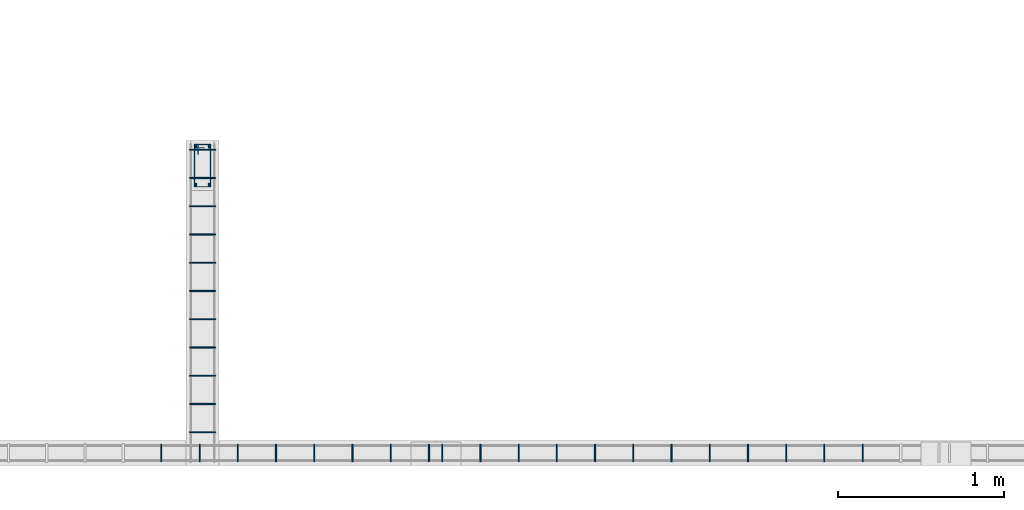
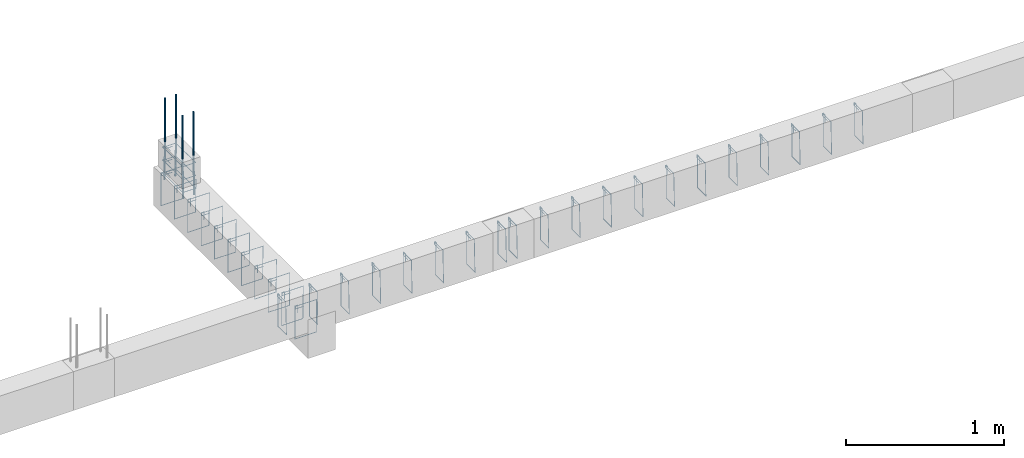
# One storey, part 89 of 150: 38 reinforcing bars.
"""IFC4 building model written with IfcOpenShell, lengths in centimetres."""

from ifc_helpers import new_model, entity, si_unit, derived_unit, frame, origin_with_axes, place, context, project, spatial, source, transform, mapped, element, save


model = new_model("IFC4")

# Units and contexts
model_context = context("Model", 3, precision=1e-05, world=origin_with_axes(), identifier="Body")
ifc_project = project(units=[si_unit("LENGTHUNIT", "METRE", prefix="CENTI"), si_unit("VOLUMEUNIT", "CUBIC_METRE"), si_unit("AREAUNIT", "SQUARE_METRE"), si_unit("POWERUNIT", "WATT"), si_unit("LUMINOUSFLUXUNIT", "LUMEN"), si_unit("ELECTRICCURRENTUNIT", "AMPERE"), si_unit("PRESSUREUNIT", "PASCAL", prefix="KILO"), si_unit("MASSUNIT", "GRAM", prefix="KILO"), si_unit("PLANEANGLEUNIT", "RADIAN"), derived_unit("VOLUMETRICFLOWRATEUNIT", [(si_unit("LENGTHUNIT", "METRE"), 3), (si_unit("TIMEUNIT", "SECOND"), -1)])], contexts=[model_context])

# Site, building, storey
site_placement = place(None, frame((-4000.0, 0.0, 0.0), z_axis=(0.0, 0.0, 1.0), x_axis=(1.0, 0.0, 0.0)))
site = spatial("IfcSite", under=ifc_project, at=site_placement, Name="PADRÃO")
building_placement = place(site_placement, frame((0.0, 0.0, -14.0)))
building = spatial("IfcBuilding", under=site, at=building_placement, Name="CRECHE PRÉ-ESCOLA TIPO 2")
placement = place(building_placement, origin_with_axes())
storey_placement = place(placement, frame((0.0, 0.0, 30.0), z_axis=(0.0, 0.0, 1.0), x_axis=(1.0, 0.0, 0.0)))
storey = spatial("IfcBuildingStorey", under=building, at=storey_placement, Name="VIGA BALDRAME", CompositionType="ELEMENT", Elevation=16.0)

# Reinforcing bars
shared_shape_1 = source(origin_with_axes(), model_context, "Body", "AdvancedSweptSolid", [
    entity("IfcSweptDiskSolid", entity("IfcCompositeCurve", [entity("IfcCompositeCurveSegment", "CONTINUOUS", True, entity("IfcPolyline", [entity("IfcCartesianPoint", [4.25, 21.75, 0.0]), entity("IfcCartesianPoint", [4.25, 27.75, 0.0])])), entity("IfcCompositeCurveSegment", "CONTINUOUS", True, entity("IfcPolyline", [entity("IfcCartesianPoint", [4.25, 27.75, 0.0]), entity("IfcCartesianPoint", [2.25, 27.75, 0.0])])), entity("IfcCompositeCurveSegment", "CONTINUOUS", True, entity("IfcPolyline", [entity("IfcCartesianPoint", [2.25, 27.75, 0.0]), entity("IfcCartesianPoint", [2.25, 2.25, 0.0])])), entity("IfcCompositeCurveSegment", "CONTINUOUS", True, entity("IfcPolyline", [entity("IfcCartesianPoint", [2.25, 2.25, 0.0]), entity("IfcCartesianPoint", [11.75, 2.25, 0.0])])), entity("IfcCompositeCurveSegment", "CONTINUOUS", True, entity("IfcPolyline", [entity("IfcCartesianPoint", [11.75, 2.25, 0.0]), entity("IfcCartesianPoint", [11.75, 27.75, -0.5])])), entity("IfcCompositeCurveSegment", "CONTINUOUS", True, entity("IfcPolyline", [entity("IfcCartesianPoint", [11.75, 27.75, -0.5]), entity("IfcCartesianPoint", [2.25, 27.75, -0.5])])), entity("IfcCompositeCurveSegment", "CONTINUOUS", True, entity("IfcPolyline", [entity("IfcCartesianPoint", [2.25, 27.75, -0.5]), entity("IfcCartesianPoint", [2.25, 25.75, -0.5])])), entity("IfcCompositeCurveSegment", "CONTINUOUS", True, entity("IfcPolyline", [entity("IfcCartesianPoint", [2.25, 25.75, -0.5]), entity("IfcCartesianPoint", [8.25, 25.75, -0.5])]))], False), 0.25),
])
for number, where, z_axis, x_axis, name in (
    (1, (3226.99, 167.5, -15.0), (0.0, 0.0, 1.0), (1.0, 0.0, 0.0), "P154 - Estribo"),
    (2, (3226.99, 167.5, -5.0), (0.0, 0.0, 1.0), (1.0, 0.0, 0.0), "P154 - Estribo"),
    (3, (3226.99, 167.5, -25.0), (0.0, 0.0, 1.0), (1.0, 0.0, 0.0), "P154 - Estribo"),
):
    element("IfcReinforcingBar", number, at=place(storey_placement, frame(where, z_axis=z_axis, x_axis=x_axis)), inside=storey, Name=name, BarLength=0.0, CrossSectionArea=1.9634954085e-05, NominalDiameter=0.5, PredefinedType="MAIN", context=model_context, shape_type="MappedRepresentation", body=[
        mapped(shared_shape_1, transform((0.0, 0.0, 0.0), scale=1.0)),
    ])
shared_shape_2 = source(origin_with_axes(), model_context, "Body", "AdvancedSweptSolid", [
    entity("IfcSweptDiskSolid", entity("IfcCompositeCurve", [entity("IfcCompositeCurveSegment", "CONTINUOUS", True, entity("IfcPolyline", [entity("IfcCartesianPoint", [2.0, -6.0, 0.0]), entity("IfcCartesianPoint", [2.0, 0.0, 0.0])])), entity("IfcCompositeCurveSegment", "CONTINUOUS", True, entity("IfcPolyline", [entity("IfcCartesianPoint", [2.0, 0.0, 0.0]), entity("IfcCartesianPoint", [0.0, 0.0, 0.0])])), entity("IfcCompositeCurveSegment", "CONTINUOUS", True, entity("IfcPolyline", [entity("IfcCartesianPoint", [0.0, 0.0, 0.0]), entity("IfcCartesianPoint", [0.0, -25.5, 0.0])])), entity("IfcCompositeCurveSegment", "CONTINUOUS", True, entity("IfcPolyline", [entity("IfcCartesianPoint", [0.0, -25.5, 0.0]), entity("IfcCartesianPoint", [10.5, -25.5, 0.0])])), entity("IfcCompositeCurveSegment", "CONTINUOUS", True, entity("IfcPolyline", [entity("IfcCartesianPoint", [10.5, -25.5, 0.0]), entity("IfcCartesianPoint", [10.5, 0.0, 0.5])])), entity("IfcCompositeCurveSegment", "CONTINUOUS", True, entity("IfcPolyline", [entity("IfcCartesianPoint", [10.5, 0.0, 0.5]), entity("IfcCartesianPoint", [0.0, 0.0, 0.5])])), entity("IfcCompositeCurveSegment", "CONTINUOUS", True, entity("IfcPolyline", [entity("IfcCartesianPoint", [0.0, 0.0, 0.5]), entity("IfcCartesianPoint", [0.0, -2.0, 0.5])])), entity("IfcCompositeCurveSegment", "CONTINUOUS", True, entity("IfcPolyline", [entity("IfcCartesianPoint", [0.0, -2.0, 0.5]), entity("IfcCartesianPoint", [6.0, -2.0, 0.5])]))], False), 0.25),
])
for number, where, z_axis, x_axis, name in (
    (4, (3209.5, 14.75, -2.25), (-1.0, 0.0, 0.0), (0.0, -1.0, 0.0), "V158 - Estribo"),
    (5, (3232.5, 14.75, -2.25), (-1.0, 0.0, 0.0), (0.0, -1.0, 0.0), "V158 - Estribo"),
    (6, (3255.5, 14.75, -2.25), (-1.0, 0.0, 0.0), (0.0, -1.0, 0.0), "V158 - Estribo"),
    (7, (3278.5, 14.75, -2.25), (-1.0, 0.0, 0.0), (0.0, -1.0, 0.0), "V158 - Estribo"),
    (8, (3301.5, 14.75, -2.25), (-1.0, 0.0, 0.0), (0.0, -1.0, 0.0), "V158 - Estribo"),
    (9, (3324.5, 14.75, -2.25), (-1.0, 0.0, 0.0), (0.0, -1.0, 0.0), "V158 - Estribo"),
    (10, (3347.5, 14.75, -2.25), (-1.0, 0.0, 0.0), (0.0, -1.0, 0.0), "V158 - Estribo"),
    (11, (3370.5, 14.75, -2.25), (-1.0, 0.0, 0.0), (0.0, -1.0, 0.0), "V158 - Estribo"),
):
    element("IfcReinforcingBar", number, at=place(storey_placement, frame(where, z_axis=z_axis, x_axis=x_axis)), inside=storey, Name=name, BarLength=0.0, CrossSectionArea=1.9634954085e-05, NominalDiameter=0.5, PredefinedType="MAIN", context=model_context, shape_type="MappedRepresentation", body=[
        mapped(shared_shape_2, transform((0.0, 0.0, 0.0), scale=1.0)),
    ])
shared_shape_3 = source(origin_with_axes(), model_context, "Body", "AdvancedSweptSolid", [
    entity("IfcSweptDiskSolid", entity("IfcCompositeCurve", [entity("IfcCompositeCurveSegment", "CONTINUOUS", True, entity("IfcPolyline", [entity("IfcCartesianPoint", [2.0, -6.0, 0.0]), entity("IfcCartesianPoint", [2.0, 0.0, 0.0])])), entity("IfcCompositeCurveSegment", "CONTINUOUS", True, entity("IfcPolyline", [entity("IfcCartesianPoint", [2.0, 0.0, 0.0]), entity("IfcCartesianPoint", [0.0, 0.0, 0.0])])), entity("IfcCompositeCurveSegment", "CONTINUOUS", True, entity("IfcPolyline", [entity("IfcCartesianPoint", [0.0, 0.0, 0.0]), entity("IfcCartesianPoint", [0.0, -25.5, 0.0])])), entity("IfcCompositeCurveSegment", "CONTINUOUS", True, entity("IfcPolyline", [entity("IfcCartesianPoint", [0.0, -25.5, 0.0]), entity("IfcCartesianPoint", [10.5, -25.5, 0.0])])), entity("IfcCompositeCurveSegment", "CONTINUOUS", True, entity("IfcPolyline", [entity("IfcCartesianPoint", [10.5, -25.5, 0.0]), entity("IfcCartesianPoint", [10.5, 0.0, 0.5])])), entity("IfcCompositeCurveSegment", "CONTINUOUS", True, entity("IfcPolyline", [entity("IfcCartesianPoint", [10.5, 0.0, 0.5]), entity("IfcCartesianPoint", [0.0, 0.0, 0.5])])), entity("IfcCompositeCurveSegment", "CONTINUOUS", True, entity("IfcPolyline", [entity("IfcCartesianPoint", [0.0, 0.0, 0.5]), entity("IfcCartesianPoint", [0.0, -2.0, 0.5])])), entity("IfcCompositeCurveSegment", "CONTINUOUS", True, entity("IfcPolyline", [entity("IfcCartesianPoint", [0.0, -2.0, 0.5]), entity("IfcCartesianPoint", [6.0, -2.0, 0.5])]))], False), 0.25),
])
for number, where, z_axis, x_axis, name in (
    (12, (3401.5, 14.75, -2.25), (-1.0, 0.0, 0.0), (0.0, -1.0, 0.0), "V158 - Estribo"),
    (13, (3424.5, 14.75, -2.25), (-1.0, 0.0, 0.0), (0.0, -1.0, 0.0), "V158 - Estribo"),
    (14, (3447.5, 14.75, -2.25), (-1.0, 0.0, 0.0), (0.0, -1.0, 0.0), "V158 - Estribo"),
    (15, (3470.5, 14.75, -2.25), (-1.0, 0.0, 0.0), (0.0, -1.0, 0.0), "V158 - Estribo"),
    (16, (3493.5, 14.75, -2.25), (-1.0, 0.0, 0.0), (0.0, -1.0, 0.0), "V158 - Estribo"),
    (17, (3516.5, 14.75, -2.25), (-1.0, 0.0, 0.0), (0.0, -1.0, 0.0), "V158 - Estribo"),
    (18, (3539.5, 14.75, -2.25), (-1.0, 0.0, 0.0), (0.0, -1.0, 0.0), "V158 - Estribo"),
    (19, (3562.5, 14.75, -2.25), (-1.0, 0.0, 0.0), (0.0, -1.0, 0.0), "V158 - Estribo"),
    (20, (3585.5, 14.75, -2.25), (-1.0, 0.0, 0.0), (0.0, -1.0, 0.0), "V158 - Estribo"),
    (21, (3608.5, 14.75, -2.25), (-1.0, 0.0, 0.0), (0.0, -1.0, 0.0), "V158 - Estribo"),
    (22, (3631.5, 14.75, -2.25), (-1.0, 0.0, 0.0), (0.0, -1.0, 0.0), "V158 - Estribo"),
    (23, (3378.5, 14.75, -2.25), (-1.0, 0.0, 0.0), (0.0, -1.0, 0.0), "V158 - Estribo"),
):
    element("IfcReinforcingBar", number, at=place(storey_placement, frame(where, z_axis=z_axis, x_axis=x_axis)), inside=storey, Name=name, BarLength=0.0, CrossSectionArea=1.9634954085e-05, NominalDiameter=0.5, PredefinedType="MAIN", context=model_context, shape_type="MappedRepresentation", body=[
        mapped(shared_shape_3, transform((0.0, 0.0, 0.0), scale=1.0)),
    ])
shared_shape_4 = source(origin_with_axes(), model_context, "Body", "AdvancedSweptSolid", [
    entity("IfcSweptDiskSolid", entity("IfcCompositeCurve", [entity("IfcCompositeCurveSegment", "CONTINUOUS", True, entity("IfcPolyline", [entity("IfcCartesianPoint", [2.0, -6.0, 0.0]), entity("IfcCartesianPoint", [2.0, 0.0, 0.0])])), entity("IfcCompositeCurveSegment", "CONTINUOUS", True, entity("IfcPolyline", [entity("IfcCartesianPoint", [2.0, 0.0, 0.0]), entity("IfcCartesianPoint", [0.0, 0.0, 0.0])])), entity("IfcCompositeCurveSegment", "CONTINUOUS", True, entity("IfcPolyline", [entity("IfcCartesianPoint", [0.0, 0.0, 0.0]), entity("IfcCartesianPoint", [0.0, -25.5, 0.0])])), entity("IfcCompositeCurveSegment", "CONTINUOUS", True, entity("IfcPolyline", [entity("IfcCartesianPoint", [0.0, -25.5, 0.0]), entity("IfcCartesianPoint", [15.5, -25.5, 0.0])])), entity("IfcCompositeCurveSegment", "CONTINUOUS", True, entity("IfcPolyline", [entity("IfcCartesianPoint", [15.5, -25.5, 0.0]), entity("IfcCartesianPoint", [15.5, 0.0, 0.5])])), entity("IfcCompositeCurveSegment", "CONTINUOUS", True, entity("IfcPolyline", [entity("IfcCartesianPoint", [15.5, 0.0, 0.5]), entity("IfcCartesianPoint", [0.0, 0.0, 0.5])])), entity("IfcCompositeCurveSegment", "CONTINUOUS", True, entity("IfcPolyline", [entity("IfcCartesianPoint", [0.0, 0.0, 0.5]), entity("IfcCartesianPoint", [0.0, -2.0, 0.5])])), entity("IfcCompositeCurveSegment", "CONTINUOUS", True, entity("IfcPolyline", [entity("IfcCartesianPoint", [0.0, -2.0, 0.5]), entity("IfcCartesianPoint", [6.0, -2.0, 0.5])]))], False), 0.25),
])
for number, where, z_axis, x_axis, name in (
    (24, (3226.24, 22.25, -22.25), (0.0, -1.0, 0.0), (1.0, 0.0, 0.0), "V223 - Estribo"),
    (25, (3226.24, 39.25, -22.25), (0.0, -1.0, 0.0), (1.0, 0.0, 0.0), "V223 - Estribo"),
    (26, (3226.24, 56.25, -22.25), (0.0, -1.0, 0.0), (1.0, 0.0, 0.0), "V223 - Estribo"),
    (27, (3226.24, 73.25, -22.25), (0.0, -1.0, 0.0), (1.0, 0.0, 0.0), "V223 - Estribo"),
    (28, (3226.24, 90.25, -22.25), (0.0, -1.0, 0.0), (1.0, 0.0, 0.0), "V223 - Estribo"),
    (29, (3226.24, 107.25, -22.25), (0.0, -1.0, 0.0), (1.0, 0.0, 0.0), "V223 - Estribo"),
    (30, (3226.24, 124.25, -22.25), (0.0, -1.0, 0.0), (1.0, 0.0, 0.0), "V223 - Estribo"),
    (31, (3226.24, 141.25, -22.25), (0.0, -1.0, 0.0), (1.0, 0.0, 0.0), "V223 - Estribo"),
    (32, (3226.24, 158.25, -22.25), (0.0, -1.0, 0.0), (1.0, 0.0, 0.0), "V223 - Estribo"),
    (33, (3226.24, 175.25, -22.25), (0.0, -1.0, 0.0), (1.0, 0.0, 0.0), "V223 - Estribo"),
    (34, (3226.24, 192.25, -22.25), (0.0, -1.0, 0.0), (1.0, 0.0, 0.0), "V223 - Estribo"),
):
    element("IfcReinforcingBar", number, at=place(storey_placement, frame(where, z_axis=z_axis, x_axis=x_axis)), inside=storey, Name=name, BarLength=0.0, CrossSectionArea=1.9634954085e-05, NominalDiameter=0.5, PredefinedType="MAIN", context=model_context, shape_type="MappedRepresentation", body=[
        mapped(shared_shape_4, transform((0.0, 0.0, 0.0), scale=1.0)),
    ])
reinforcing_bar_1_placement = place(storey_placement, frame((3237.99, 193.999861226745, 33.3573001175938), z_axis=(0.0, 0.0, 1.0), x_axis=(1.0, 0.0, 0.0)))
element("IfcReinforcingBar", 35, at=reinforcing_bar_1_placement, inside=storey, Name="P154 - Longitudinal", BarLength=0.0, CrossSectionArea=7.853981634e-05, NominalDiameter=1.0, PredefinedType="MAIN", context=model_context, shape_type="AdvancedSweptSolid", body=[
    entity("IfcSweptDiskSolid", entity("IfcCompositeCurve", [entity("IfcCompositeCurveSegment", "CONTINUOUS", True, entity("IfcPolyline", [entity("IfcCartesianPoint", [0.0, 0.50013877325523, -63.3573001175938]), entity("IfcCartesianPoint", [0.0, -0.49986122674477, -33.3573001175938])])), entity("IfcCompositeCurveSegment", "CONTINUOUS", True, entity("IfcPolyline", [entity("IfcCartesianPoint", [0.0, -0.49986122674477, -33.3573001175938]), entity("IfcCartesianPoint", [0.0, -0.49986122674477, 0.0])]))], False), 0.5),
])
for number, where, z_axis, x_axis, name in (
    (36, (3237.99, 171.000138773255, 33.3573001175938), (0.0, 0.0, 1.0), (1.0, 0.0, 0.0), "P154 - Longitudinal"),
    (37, (3229.99, 171.000138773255, 33.3573001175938), (0.0, 0.0, 1.0), (1.0, 0.0, 0.0), "P154 - Longitudinal"),
):
    element("IfcReinforcingBar", number, at=place(storey_placement, frame(where, z_axis=z_axis, x_axis=x_axis)), inside=storey, Name=name, BarLength=0.0, CrossSectionArea=7.853981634e-05, NominalDiameter=1.0, PredefinedType="MAIN", context=model_context, shape_type="AdvancedSweptSolid", body=[
        entity("IfcSweptDiskSolid", entity("IfcCompositeCurve", [entity("IfcCompositeCurveSegment", "CONTINUOUS", True, entity("IfcPolyline", [entity("IfcCartesianPoint", [0.0, -0.50013877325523, -63.3573001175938]), entity("IfcCartesianPoint", [0.0, 0.49986122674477, -33.3573001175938])])), entity("IfcCompositeCurveSegment", "CONTINUOUS", True, entity("IfcPolyline", [entity("IfcCartesianPoint", [0.0, 0.49986122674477, -33.3573001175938]), entity("IfcCartesianPoint", [0.0, 0.49986122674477, 0.0])]))], False), 0.5),
    ])
reinforcing_bar_2_placement = place(storey_placement, frame((3229.99, 193.999861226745, 33.3573001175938), z_axis=(0.0, 0.0, 1.0), x_axis=(1.0, 0.0, 0.0)))
element("IfcReinforcingBar", 38, at=reinforcing_bar_2_placement, inside=storey, Name="P154 - Longitudinal", BarLength=0.0, CrossSectionArea=7.853981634e-05, NominalDiameter=1.0, PredefinedType="MAIN", context=model_context, shape_type="AdvancedSweptSolid", body=[
    entity("IfcSweptDiskSolid", entity("IfcCompositeCurve", [entity("IfcCompositeCurveSegment", "CONTINUOUS", True, entity("IfcPolyline", [entity("IfcCartesianPoint", [0.0, 0.50013877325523, -63.3573001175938]), entity("IfcCartesianPoint", [0.0, -0.49986122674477, -33.3573001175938])])), entity("IfcCompositeCurveSegment", "CONTINUOUS", True, entity("IfcPolyline", [entity("IfcCartesianPoint", [0.0, -0.49986122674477, -33.3573001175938]), entity("IfcCartesianPoint", [0.0, -0.49986122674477, 0.0])]))], False), 0.5),
])

save(model, "model.ifc")
